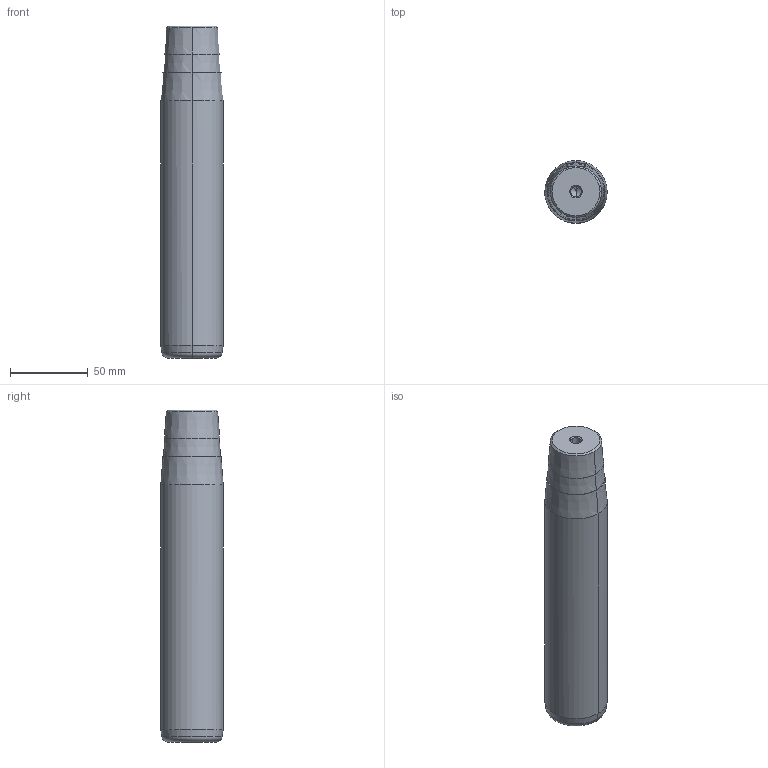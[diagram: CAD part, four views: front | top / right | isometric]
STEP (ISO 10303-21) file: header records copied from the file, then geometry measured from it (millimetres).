
FILE_DESCRIPTION(('CATIA V5 STEP Exchange'),'2;1');
FILE_NAME('C:\Users\Utente\Desktop\IO LAVORO\3D X SITO CF\X SITO\722\722-40x180x213.stp','2021-01-08T15:35:47+00:00',('none'),('none'),'CATIA Version 5 Release 20 GA (IN-10)','CATIA V5 STEP AP203','none');
FILE_SCHEMA(('CONFIG_CONTROL_DESIGN'));
Length unit declared in the file: millimetre
Products named in the file (1): 722-40x180x213
Bounding box: 40 x 40 x 213 mm (x, y, z)
Volume: 254303.2 mm3; surface area: 29103.2 mm2
Topology: 1 solids, 1 shells, 32 faces, 98 edges, 66 vertices
Faces by surface type: cone 22, cylinder 6, plane 2, torus 2
Entity records: 1166 total; most frequent: CARTESIAN_POINT 279, ORIENTED_EDGE 188, DIRECTION 148, EDGE_CURVE 94, AXIS2_PLACEMENT_3D 89, VERTEX_POINT 66, CIRCLE 56, EDGE_LOOP 34
